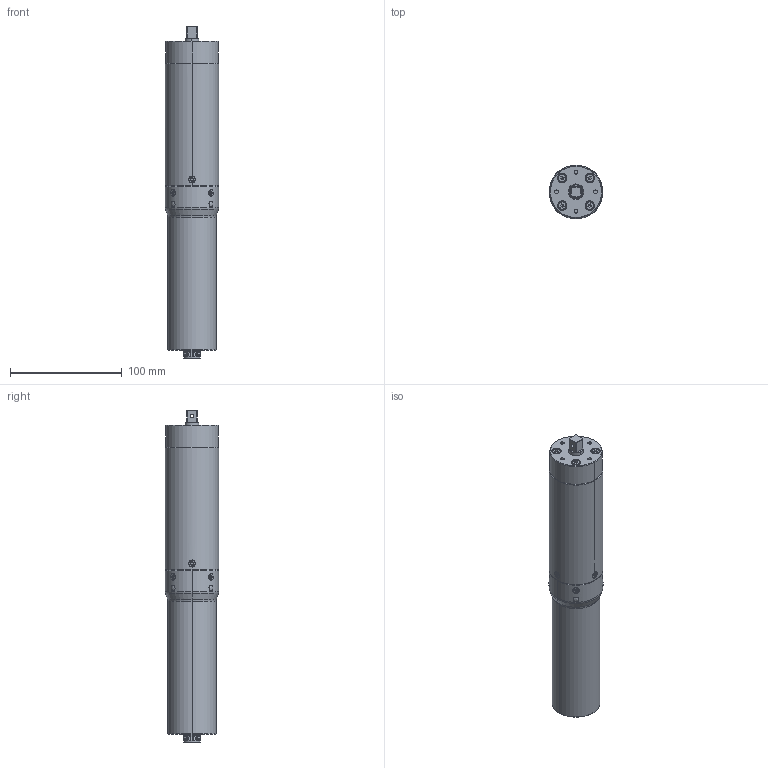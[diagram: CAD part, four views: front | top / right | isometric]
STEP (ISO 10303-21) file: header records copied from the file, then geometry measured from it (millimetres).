
FILE_DESCRIPTION (( 'STEP AP214' ), '1' );
FILE_NAME ('135120-KDS-PL20CA.STEP', '2021-07-21T13:05:53', ( '' ), ( '' ), 'SwSTEP 2.0', 'SolidWorks 2020', '' );
FILE_SCHEMA (( 'AUTOMOTIVE_DESIGN' ));
Length unit declared in the file: millimetre
Products named in the file (1): 135120-KDS-PL20CA
Bounding box: 48 x 48 x 297.4 mm (x, y, z)
Surface area: 47734.4 mm2 (no closed solid volume)
Topology: 0 solids, 25 shells, 365 faces, 1016 edges, 661 vertices
Faces by surface type: cylinder 194, plane 71, cone 64, torus 32, bspline 4
Entity records: 16801 total; most frequent: CARTESIAN_POINT 3165, DIRECTION 2242, ORIENTED_EDGE 1767, EDGE_CURVE 1008, AXIS2_PLACEMENT_3D 922, VERTEX_POINT 661, CIRCLE 560, EDGE_LOOP 419
